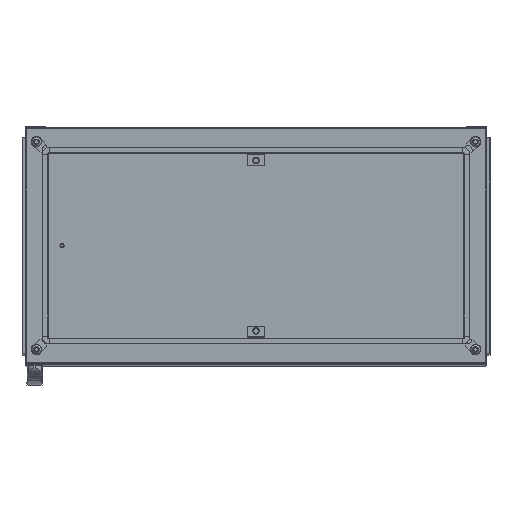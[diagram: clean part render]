
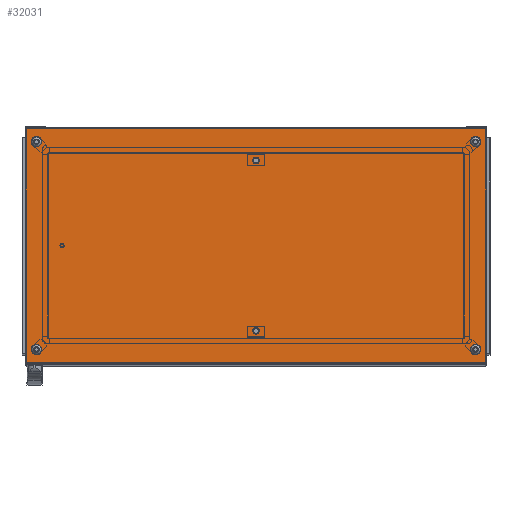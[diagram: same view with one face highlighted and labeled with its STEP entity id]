
A CAD part, top view. The second image highlights one B-rep face of the part: STEP entity #32031.
In plain terms, the highlighted planar face has unit normal (0, 0, 1).
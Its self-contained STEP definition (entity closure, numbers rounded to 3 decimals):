
#1520=CIRCLE('',#34347,7.321);
#1521=CIRCLE('',#34348,7.321);
#1522=CIRCLE('',#34349,6.);
#1523=CIRCLE('',#34350,6.);
#1524=CIRCLE('',#34351,6.);
#1525=CIRCLE('',#34352,6.);
#5615=ORIENTED_EDGE('',*,*,#13429,.F.);
#5616=ORIENTED_EDGE('',*,*,#13430,.F.);
#5617=ORIENTED_EDGE('',*,*,#13431,.F.);
#5618=ORIENTED_EDGE('',*,*,#13432,.F.);
#5619=ORIENTED_EDGE('',*,*,#13433,.F.);
#5620=ORIENTED_EDGE('',*,*,#13434,.F.);
#5621=ORIENTED_EDGE('',*,*,#13418,.T.);
#5622=ORIENTED_EDGE('',*,*,#13426,.T.);
#5623=ORIENTED_EDGE('',*,*,#13389,.F.);
#5624=ORIENTED_EDGE('',*,*,#13435,.F.);
#13389=EDGE_CURVE('',#17531,#17532,#20734,.T.);
#13418=EDGE_CURVE('',#17553,#17552,#20740,.T.);
#13426=EDGE_CURVE('',#17552,#17532,#20745,.T.);
#13429=EDGE_CURVE('',#17554,#17554,#1520,.T.);
#13430=EDGE_CURVE('',#17555,#17555,#1521,.T.);
#13431=EDGE_CURVE('',#17556,#17556,#1522,.T.);
#13432=EDGE_CURVE('',#17557,#17557,#1523,.T.);
#13433=EDGE_CURVE('',#17558,#17558,#1524,.T.);
#13434=EDGE_CURVE('',#17559,#17559,#1525,.T.);
#13435=EDGE_CURVE('',#17553,#17531,#20748,.T.);
#17531=VERTEX_POINT('',#49751);
#17532=VERTEX_POINT('',#49753);
#17552=VERTEX_POINT('',#49827);
#17553=VERTEX_POINT('',#49829);
#17554=VERTEX_POINT('',#49846);
#17555=VERTEX_POINT('',#49848);
#17556=VERTEX_POINT('',#49850);
#17557=VERTEX_POINT('',#49852);
#17558=VERTEX_POINT('',#49854);
#17559=VERTEX_POINT('',#49856);
#20734=LINE('',#49752,#23505);
#20740=LINE('',#49828,#23511);
#20745=LINE('',#49840,#23516);
#20748=LINE('',#49857,#23519);
#23505=VECTOR('',#39775,1000.);
#23511=VECTOR('',#39829,1000.);
#23516=VECTOR('',#39846,1000.);
#23519=VECTOR('',#39865,1000.);
#25946=EDGE_LOOP('',(#5615));
#25947=EDGE_LOOP('',(#5616));
#25948=EDGE_LOOP('',(#5617));
#25949=EDGE_LOOP('',(#5618));
#25950=EDGE_LOOP('',(#5619));
#25951=EDGE_LOOP('',(#5620));
#25952=EDGE_LOOP('',(#5621,#5622,#5623,#5624));
#28632=FACE_BOUND('',#25946,.T.);
#28633=FACE_BOUND('',#25947,.T.);
#28634=FACE_BOUND('',#25948,.T.);
#28635=FACE_BOUND('',#25949,.T.);
#28636=FACE_BOUND('',#25950,.T.);
#28637=FACE_BOUND('',#25951,.T.);
#28638=FACE_BOUND('',#25952,.T.);
#30971=PLANE('',#34346);
#32031=ADVANCED_FACE('',(#28632,#28633,#28634,#28635,#28636,#28637,#28638),
#30971,.T.);
#34346=AXIS2_PLACEMENT_3D('',#49844,#39851,#39852);
#34347=AXIS2_PLACEMENT_3D('',#49845,#39853,#39854);
#34348=AXIS2_PLACEMENT_3D('',#49847,#39855,#39856);
#34349=AXIS2_PLACEMENT_3D('',#49849,#39857,#39858);
#34350=AXIS2_PLACEMENT_3D('',#49851,#39859,#39860);
#34351=AXIS2_PLACEMENT_3D('',#49853,#39861,#39862);
#34352=AXIS2_PLACEMENT_3D('',#49855,#39863,#39864);
#39775=DIRECTION('',(-1.,0.,0.));
#39829=DIRECTION('',(-1.,0.,0.));
#39846=DIRECTION('',(0.,-1.,0.));
#39851=DIRECTION('',(0.,0.,1.));
#39852=DIRECTION('',(1.,0.,0.));
#39853=DIRECTION('',(0.,0.,1.));
#39854=DIRECTION('',(1.,0.,0.));
#39855=DIRECTION('',(0.,0.,1.));
#39856=DIRECTION('',(1.,0.,0.));
#39857=DIRECTION('',(0.,0.,1.));
#39858=DIRECTION('',(1.,0.,0.));
#39859=DIRECTION('',(0.,0.,1.));
#39860=DIRECTION('',(1.,0.,0.));
#39861=DIRECTION('',(0.,0.,1.));
#39862=DIRECTION('',(1.,0.,0.));
#39863=DIRECTION('',(0.,0.,1.));
#39864=DIRECTION('',(1.,0.,0.));
#39865=DIRECTION('',(0.,-1.,0.));
#49751=CARTESIAN_POINT('',(496.5,-252.5,20.));
#49752=CARTESIAN_POINT('',(500.,-252.5,20.));
#49753=CARTESIAN_POINT('',(-496.5,-252.5,20.));
#49827=CARTESIAN_POINT('',(-496.5,252.5,20.));
#49828=CARTESIAN_POINT('',(500.,252.5,20.));
#49829=CARTESIAN_POINT('',(496.5,252.5,20.));
#49840=CARTESIAN_POINT('',(-496.5,255.5,20.));
#49844=CARTESIAN_POINT('',(-496.5,-252.5,20.));
#49845=CARTESIAN_POINT('',(0.,-184.,20.));
#49846=CARTESIAN_POINT('',(7.321,-184.,20.));
#49847=CARTESIAN_POINT('',(0.,184.,20.));
#49848=CARTESIAN_POINT('',(7.321,184.,20.));
#49849=CARTESIAN_POINT('',(474.5,-224.5,20.));
#49850=CARTESIAN_POINT('',(480.5,-224.5,20.));
#49851=CARTESIAN_POINT('',(-474.5,224.5,20.));
#49852=CARTESIAN_POINT('',(-468.5,224.5,20.));
#49853=CARTESIAN_POINT('',(474.5,224.5,20.));
#49854=CARTESIAN_POINT('',(480.5,224.5,20.));
#49855=CARTESIAN_POINT('',(-474.5,-224.5,20.));
#49856=CARTESIAN_POINT('',(-468.5,-224.5,20.));
#49857=CARTESIAN_POINT('',(496.5,255.5,20.));
